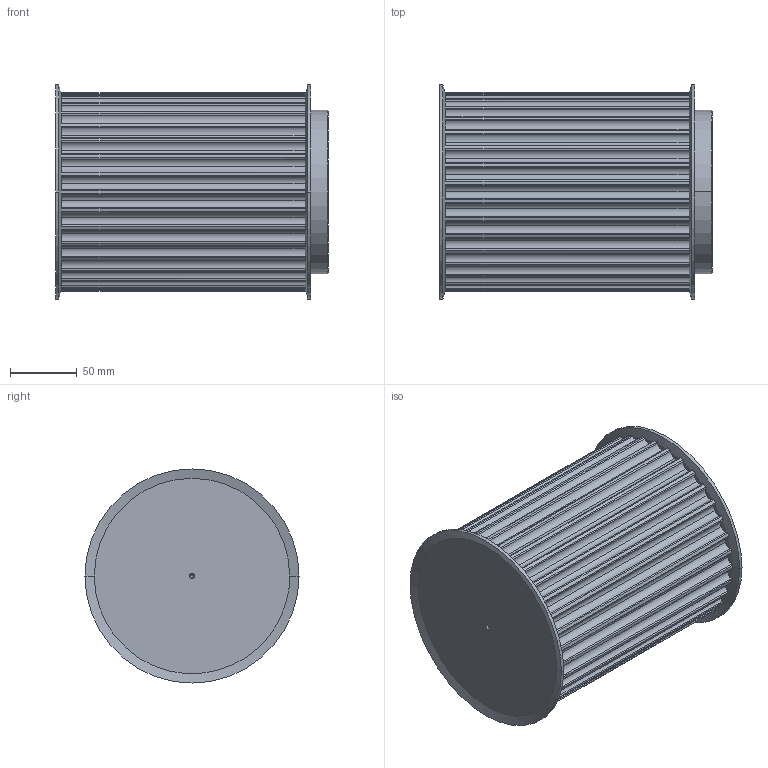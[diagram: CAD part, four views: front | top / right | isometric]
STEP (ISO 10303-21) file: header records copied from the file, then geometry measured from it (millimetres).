
FILE_DESCRIPTION(('STEP AP203'),'1');
FILE_NAME('34_-_14_m_170.stp','2022-04-28T11:37:51',('TraceParts'),('TraceParts S.A.'),'Spatial InterOp 3D',' ',' ');
FILE_SCHEMA(('CONFIG_CONTROL_DESIGN'));
Length unit declared in the file: millimetre
Products named in the file (1): 1
Bounding box: 203.88 x 160 x 160 mm (x, y, z)
Volume: 3225192.6 mm3; surface area: 167377.8 mm2
Topology: 1 solids, 1 shells, 269 faces, 784 edges, 516 vertices
Faces by surface type: cylinder 180, plane 71, cone 18
Entity records: 10100 total; most frequent: CARTESIAN_POINT 3198, ORIENTED_EDGE 1560, DIRECTION 1358, EDGE_CURVE 780, AXIS2_PLACEMENT_3D 580, VERTEX_POINT 516, CIRCLE 310, EDGE_LOOP 272
